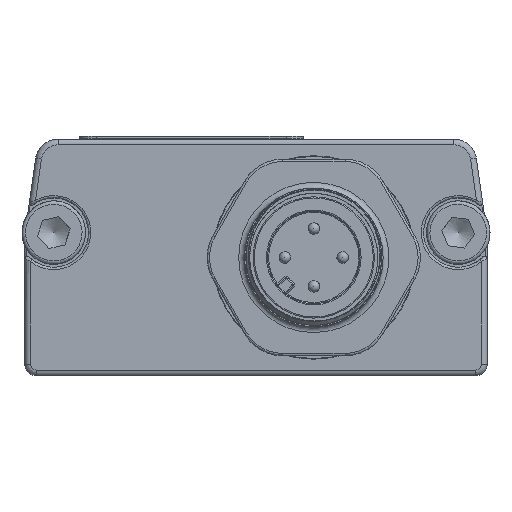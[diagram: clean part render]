
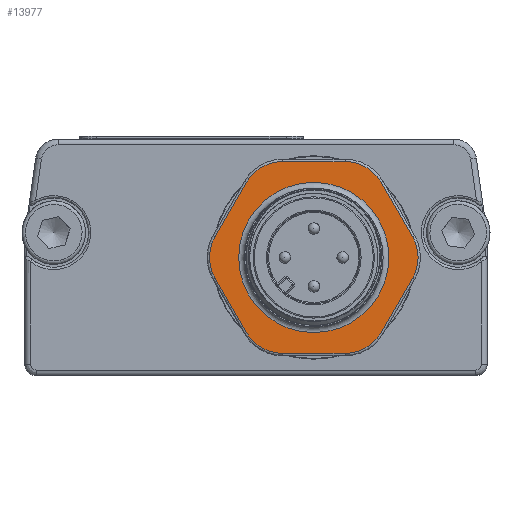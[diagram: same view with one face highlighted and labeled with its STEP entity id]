
A CAD part, front view. The second image highlights one B-rep face of the part: STEP entity #13977.
In plain terms, the highlighted planar face has unit normal (0, -1, 0).
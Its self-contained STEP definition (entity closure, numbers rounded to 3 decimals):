
#201=FACE_BOUND('',#2493,.T.);
#742=CIRCLE('',#15065,3.6);
#747=CIRCLE('',#15072,3.6);
#750=CIRCLE('',#15077,3.6);
#753=CIRCLE('',#15082,3.6);
#757=CIRCLE('',#15088,3.6);
#761=CIRCLE('',#15094,3.6);
#762=CIRCLE('',#15102,6.5);
#1131=PLANE('',#15101);
#1699=FACE_OUTER_BOUND('',#2492,.T.);
#2492=EDGE_LOOP('',(#10906,#10907,#10908,#10909,#10910,#10911,#10912,#10913,
#10914,#10915,#10916,#10917));
#2493=EDGE_LOOP('',(#10918));
#3755=LINE('',#26077,#4817);
#3756=LINE('',#26085,#4818);
#3757=LINE('',#26093,#4819);
#3758=LINE('',#26101,#4820);
#3760=LINE('',#26113,#4822);
#3761=LINE('',#26121,#4823);
#4817=VECTOR('',#17645,10.);
#4818=VECTOR('',#17656,10.);
#4819=VECTOR('',#17667,10.);
#4820=VECTOR('',#17678,10.);
#4822=VECTOR('',#17692,10.);
#4823=VECTOR('',#17703,10.);
#6049=VERTEX_POINT('',#26066);
#6050=VERTEX_POINT('',#26068);
#6052=VERTEX_POINT('',#26074);
#6053=VERTEX_POINT('',#26079);
#6054=VERTEX_POINT('',#26083);
#6055=VERTEX_POINT('',#26087);
#6056=VERTEX_POINT('',#26091);
#6057=VERTEX_POINT('',#26095);
#6058=VERTEX_POINT('',#26099);
#6059=VERTEX_POINT('',#26103);
#6061=VERTEX_POINT('',#26109);
#6063=VERTEX_POINT('',#26115);
#6065=VERTEX_POINT('',#26134);
#7741=EDGE_CURVE('',#6049,#6050,#742,.T.);
#7746=EDGE_CURVE('',#6050,#6052,#3755,.T.);
#7748=EDGE_CURVE('',#6052,#6053,#747,.T.);
#7750=EDGE_CURVE('',#6053,#6054,#3756,.T.);
#7752=EDGE_CURVE('',#6054,#6055,#750,.T.);
#7754=EDGE_CURVE('',#6055,#6056,#3757,.T.);
#7756=EDGE_CURVE('',#6056,#6057,#753,.T.);
#7758=EDGE_CURVE('',#6057,#6058,#3758,.T.);
#7761=EDGE_CURVE('',#6058,#6059,#757,.T.);
#7764=EDGE_CURVE('',#6059,#6061,#3760,.T.);
#7767=EDGE_CURVE('',#6061,#6063,#761,.T.);
#7768=EDGE_CURVE('',#6063,#6049,#3761,.T.);
#7775=EDGE_CURVE('',#6065,#6065,#762,.T.);
#10906=ORIENTED_EDGE('',*,*,#7741,.F.);
#10907=ORIENTED_EDGE('',*,*,#7768,.F.);
#10908=ORIENTED_EDGE('',*,*,#7767,.F.);
#10909=ORIENTED_EDGE('',*,*,#7764,.F.);
#10910=ORIENTED_EDGE('',*,*,#7761,.F.);
#10911=ORIENTED_EDGE('',*,*,#7758,.F.);
#10912=ORIENTED_EDGE('',*,*,#7756,.F.);
#10913=ORIENTED_EDGE('',*,*,#7754,.F.);
#10914=ORIENTED_EDGE('',*,*,#7752,.F.);
#10915=ORIENTED_EDGE('',*,*,#7750,.F.);
#10916=ORIENTED_EDGE('',*,*,#7748,.F.);
#10917=ORIENTED_EDGE('',*,*,#7746,.F.);
#10918=ORIENTED_EDGE('',*,*,#7775,.F.);
#13977=ADVANCED_FACE('',(#1699,#201),#1131,.T.);
#15065=AXIS2_PLACEMENT_3D('',#26069,#17634,#17635);
#15072=AXIS2_PLACEMENT_3D('',#26081,#17650,#17651);
#15077=AXIS2_PLACEMENT_3D('',#26089,#17661,#17662);
#15082=AXIS2_PLACEMENT_3D('',#26097,#17672,#17673);
#15088=AXIS2_PLACEMENT_3D('',#26107,#17685,#17686);
#15094=AXIS2_PLACEMENT_3D('',#26119,#17699,#17700);
#15101=AXIS2_PLACEMENT_3D('',#26133,#17720,#17721);
#15102=AXIS2_PLACEMENT_3D('',#26135,#17722,#17723);
#17634=DIRECTION('center_axis',(0.,1.,0.));
#17635=DIRECTION('ref_axis',(-0.5,0.,-0.866));
#17645=DIRECTION('',(-0.5,0.,0.866));
#17650=DIRECTION('center_axis',(0.,1.,0.));
#17651=DIRECTION('ref_axis',(-1.,0.,0.));
#17656=DIRECTION('',(0.5,0.,0.866));
#17661=DIRECTION('center_axis',(0.,1.,0.));
#17662=DIRECTION('ref_axis',(-0.5,0.,0.866));
#17667=DIRECTION('',(1.,0.,0.));
#17672=DIRECTION('center_axis',(0.,1.,0.));
#17673=DIRECTION('ref_axis',(0.5,0.,0.866));
#17678=DIRECTION('',(0.5,0.,-0.866));
#17685=DIRECTION('center_axis',(0.,1.,0.));
#17686=DIRECTION('ref_axis',(1.,0.,0.));
#17692=DIRECTION('',(-0.5,0.,-0.866));
#17699=DIRECTION('center_axis',(0.,1.,0.));
#17700=DIRECTION('ref_axis',(0.5,0.,-0.866));
#17703=DIRECTION('',(-1.,0.,0.));
#17720=DIRECTION('center_axis',(0.,-1.,0.));
#17721=DIRECTION('ref_axis',(-1.,0.,0.));
#17722=DIRECTION('center_axis',(0.,-1.,0.));
#17723=DIRECTION('ref_axis',(0.,0.,
1.));
#26066=CARTESIAN_POINT('',(6.773,-12.9,-17.273));
#26068=CARTESIAN_POINT('',(3.655,-12.9,-15.473));
#26069=CARTESIAN_POINT('Origin',(6.773,-12.9,-13.673));
#26074=CARTESIAN_POINT('',(0.941,-12.9,-10.773));
#26077=CARTESIAN_POINT('',(1.071,-12.9,-10.998));
#26079=CARTESIAN_POINT('',(0.941,-12.9,-7.173));
#26081=CARTESIAN_POINT('Origin',(4.059,-12.9,-8.973));
#26083=CARTESIAN_POINT('',(3.655,-12.9,-2.473));
#26085=CARTESIAN_POINT('',(3.525,-12.9,-2.698));
#26087=CARTESIAN_POINT('',(6.773,-12.9,-0.673));
#26089=CARTESIAN_POINT('Origin',(6.773,-12.9,-4.273));
#26091=CARTESIAN_POINT('',(12.2,-12.9,-0.673));
#26093=CARTESIAN_POINT('',(11.94,-12.9,-0.673));
#26095=CARTESIAN_POINT('',(15.317,-12.9,-2.473));
#26097=CARTESIAN_POINT('Origin',(12.2,-12.9,-4.273));
#26099=CARTESIAN_POINT('',(18.031,-12.9,-7.173));
#26101=CARTESIAN_POINT('',(17.901,-12.9,-6.948));
#26103=CARTESIAN_POINT('',(18.031,-12.9,-10.773));
#26107=CARTESIAN_POINT('Origin',(14.913,-12.9,-8.973));
#26109=CARTESIAN_POINT('',(15.317,-12.9,-15.473));
#26113=CARTESIAN_POINT('',(15.447,-12.9,-15.248));
#26115=CARTESIAN_POINT('',(12.2,-12.9,-17.273));
#26119=CARTESIAN_POINT('Origin',(12.2,-12.9,-13.673));
#26121=CARTESIAN_POINT('',(7.032,-12.9,-17.273));
#26133=CARTESIAN_POINT('Origin',(9.486,-12.9,-8.973));
#26134=CARTESIAN_POINT('',(2.986,-12.9,-8.973));
#26135=CARTESIAN_POINT('Origin',(9.486,-12.9,-8.973));
